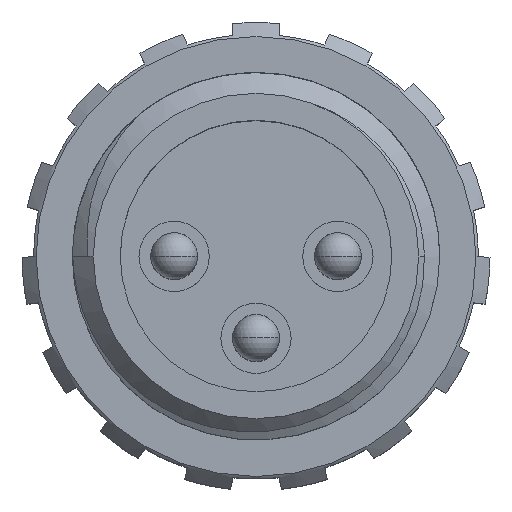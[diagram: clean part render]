
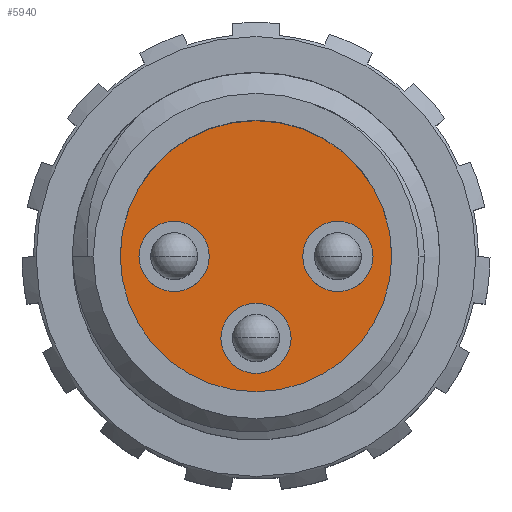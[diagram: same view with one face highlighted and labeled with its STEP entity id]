
A CAD part, top view. The second image highlights one B-rep face of the part: STEP entity #5940.
In plain terms, the highlighted planar face has unit normal (0, 0, 1).
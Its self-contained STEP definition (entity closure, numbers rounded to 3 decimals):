
#282 = DIRECTION ( 'NONE',  ( -1., 0., 0. ) ) ;
#376 = FACE_BOUND ( 'NONE', #6158, .T. ) ;
#419 = FACE_BOUND ( 'NONE', #1640, .T. ) ;
#483 = ORIENTED_EDGE ( 'NONE', *, *, #3556, .F. ) ;
#494 = EDGE_CURVE ( 'NONE', #5568, #3373, #5896, .T. ) ;
#497 = CARTESIAN_POINT ( 'NONE',  ( 1., 0., -8.566 ) ) ;
#644 = EDGE_LOOP ( 'NONE', ( #3424, #2043 ) ) ;
#733 = DIRECTION ( 'NONE',  ( 0., 0., 1. ) ) ;
#907 = ORIENTED_EDGE ( 'NONE', *, *, #494, .F. ) ;
#1016 = CIRCLE ( 'NONE', #1798, 0.75 ) ;
#1159 = DIRECTION ( 'NONE',  ( 1., 0., 0. ) ) ;
#1557 = EDGE_CURVE ( 'NONE', #4992, #5887, #7461, .T. ) ;
#1640 = EDGE_LOOP ( 'NONE', ( #2521, #6337 ) ) ;
#1724 = DIRECTION ( 'NONE',  ( -1., 0., 0. ) ) ;
#1782 = FACE_BOUND ( 'NONE', #3635, .T. ) ;
#1798 = AXIS2_PLACEMENT_3D ( 'NONE', #7906, #2943, #7946 ) ;
#1831 = CARTESIAN_POINT ( 'NONE',  ( -2.5, 0., -8.566 ) ) ;
#1914 = EDGE_CURVE ( 'NONE', #8053, #5844, #1016, .T. ) ;
#1944 = DIRECTION ( 'NONE',  ( -1., 0., 0. ) ) ;
#1984 = AXIS2_PLACEMENT_3D ( 'NONE', #2195, #4084, #6604 ) ;
#2043 = ORIENTED_EDGE ( 'NONE', *, *, #7039, .T. ) ;
#2126 = AXIS2_PLACEMENT_3D ( 'NONE', #7895, #6565, #7853 ) ;
#2195 = CARTESIAN_POINT ( 'NONE',  ( 1.75, 0., -8.566 ) ) ;
#2519 = CARTESIAN_POINT ( 'NONE',  ( 2.5, 0., -8.566 ) ) ;
#2521 = ORIENTED_EDGE ( 'NONE', *, *, #1914, .F. ) ;
#2581 = AXIS2_PLACEMENT_3D ( 'NONE', #3855, #733, #1724 ) ;
#2628 = EDGE_CURVE ( 'NONE', #7068, #5484, #8049, .T. ) ;
#2845 = AXIS2_PLACEMENT_3D ( 'NONE', #7037, #3986, #5561 ) ;
#2894 = CARTESIAN_POINT ( 'NONE',  ( 0., -2.9, -8.566 ) ) ;
#2943 = DIRECTION ( 'NONE',  ( 0., 0., 1. ) ) ;
#3024 = ORIENTED_EDGE ( 'NONE', *, *, #4828, .F. ) ;
#3145 = AXIS2_PLACEMENT_3D ( 'NONE', #5919, #4058, #282 ) ;
#3176 = DIRECTION ( 'NONE',  ( 0., 0., 1. ) ) ;
#3223 = CIRCLE ( 'NONE', #2845, 2.9 ) ;
#3326 = CARTESIAN_POINT ( 'NONE',  ( -2.9, 0., -8.566 ) ) ;
#3373 = VERTEX_POINT ( 'NONE', #5948 ) ;
#3424 = ORIENTED_EDGE ( 'NONE', *, *, #2628, .T. ) ;
#3426 = CARTESIAN_POINT ( 'NONE',  ( 0.75, -1.75, -8.566 ) ) ;
#3556 = EDGE_CURVE ( 'NONE', #3373, #5568, #5122, .T. ) ;
#3592 = CARTESIAN_POINT ( 'NONE',  ( 2.9, 0., -8.566 ) ) ;
#3635 = EDGE_LOOP ( 'NONE', ( #907, #483 ) ) ;
#3832 = EDGE_CURVE ( 'NONE', #5844, #8053, #4623, .T. ) ;
#3834 = CARTESIAN_POINT ( 'NONE',  ( -1.75, 0., -8.566 ) ) ;
#3855 = CARTESIAN_POINT ( 'NONE',  ( 1.75, 0., -8.566 ) ) ;
#3986 = DIRECTION ( 'NONE',  ( 0., 0., 1. ) ) ;
#4058 = DIRECTION ( 'NONE',  ( 0., 0., 1. ) ) ;
#4084 = DIRECTION ( 'NONE',  ( 0., 0., 1. ) ) ;
#4162 = CARTESIAN_POINT ( 'NONE',  ( -0.75, -1.75, -8.566 ) ) ;
#4278 = PLANE ( 'NONE',  #5803 ) ;
#4623 = CIRCLE ( 'NONE', #3145, 0.75 ) ;
#4647 = ORIENTED_EDGE ( 'NONE', *, *, #1557, .F. ) ;
#4788 = DIRECTION ( 'NONE',  ( 0., 0., -1. ) ) ;
#4828 = EDGE_CURVE ( 'NONE', #5887, #4992, #6194, .T. ) ;
#4992 = VERTEX_POINT ( 'NONE', #2519 ) ;
#5122 = CIRCLE ( 'NONE', #2126, 0.75 ) ;
#5184 = CARTESIAN_POINT ( 'NONE',  ( 0., 0., -8.566 ) ) ;
#5484 = VERTEX_POINT ( 'NONE', #3592 ) ;
#5561 = DIRECTION ( 'NONE',  ( -1., 0., 0. ) ) ;
#5568 = VERTEX_POINT ( 'NONE', #1831 ) ;
#5803 = AXIS2_PLACEMENT_3D ( 'NONE', #2894, #4788, #1159 ) ;
#5844 = VERTEX_POINT ( 'NONE', #3426 ) ;
#5887 = VERTEX_POINT ( 'NONE', #497 ) ;
#5896 = CIRCLE ( 'NONE', #8010, 0.75 ) ;
#5919 = CARTESIAN_POINT ( 'NONE',  ( 0., -1.75, -8.566 ) ) ;
#5923 = DIRECTION ( 'NONE',  ( 0., 0., 1. ) ) ;
#5940 = ADVANCED_FACE ( 'NONE', ( #376, #1782, #419, #7971 ), #4278, .F. ) ;
#5948 = CARTESIAN_POINT ( 'NONE',  ( -1., 0., -8.566 ) ) ;
#6158 = EDGE_LOOP ( 'NONE', ( #3024, #4647 ) ) ;
#6194 = CIRCLE ( 'NONE', #1984, 0.75 ) ;
#6337 = ORIENTED_EDGE ( 'NONE', *, *, #3832, .F. ) ;
#6507 = DIRECTION ( 'NONE',  ( -1., 0., 0. ) ) ;
#6565 = DIRECTION ( 'NONE',  ( 0., 0., 1. ) ) ;
#6604 = DIRECTION ( 'NONE',  ( -1., 0., 0. ) ) ;
#7037 = CARTESIAN_POINT ( 'NONE',  ( 0., 0., -8.566 ) ) ;
#7039 = EDGE_CURVE ( 'NONE', #5484, #7068, #3223, .T. ) ;
#7068 = VERTEX_POINT ( 'NONE', #3326 ) ;
#7461 = CIRCLE ( 'NONE', #2581, 0.75 ) ;
#7519 = AXIS2_PLACEMENT_3D ( 'NONE', #5184, #5923, #6507 ) ;
#7853 = DIRECTION ( 'NONE',  ( -1., 0., 0. ) ) ;
#7895 = CARTESIAN_POINT ( 'NONE',  ( -1.75, 0., -8.566 ) ) ;
#7906 = CARTESIAN_POINT ( 'NONE',  ( 0., -1.75, -8.566 ) ) ;
#7946 = DIRECTION ( 'NONE',  ( -1., 0., 0. ) ) ;
#7971 = FACE_OUTER_BOUND ( 'NONE', #644, .T. ) ;
#8010 = AXIS2_PLACEMENT_3D ( 'NONE', #3834, #3176, #1944 ) ;
#8049 = CIRCLE ( 'NONE', #7519, 2.9 ) ;
#8053 = VERTEX_POINT ( 'NONE', #4162 ) ;
